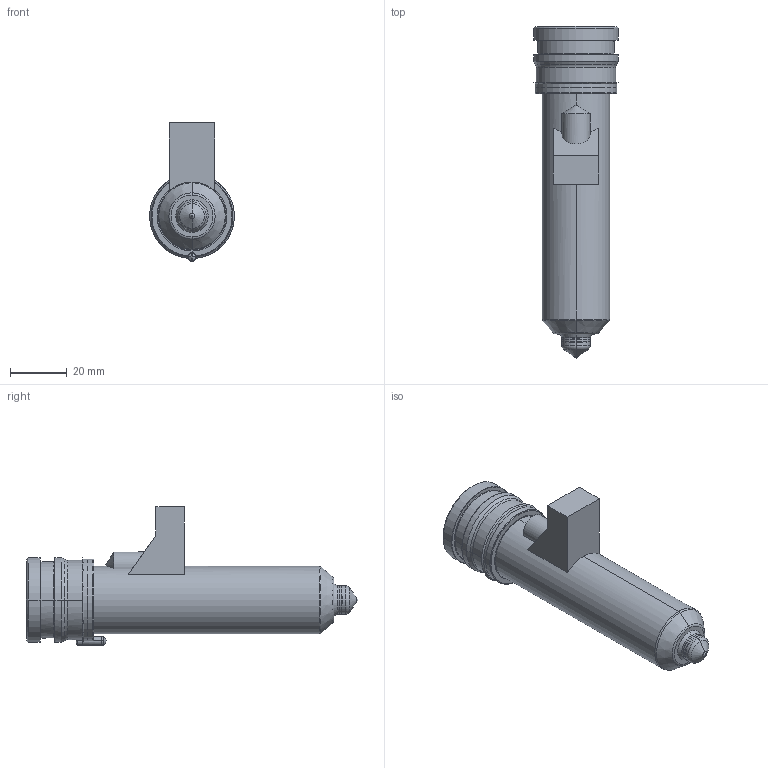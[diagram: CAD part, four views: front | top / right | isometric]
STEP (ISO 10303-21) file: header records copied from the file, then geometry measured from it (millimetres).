
FILE_DESCRIPTION((''),'2;1');
FILE_NAME('MPN-10-29-TX10-096-M','2026-02-05T12:51:01',('UPTIO'),('Thermoplay S.p.A.'),'CREO PARAMETRIC BY PTC INC, 2023494','CREO PARAMETRIC BY PTC INC, 2023494','');
FILE_SCHEMA(('CONFIG_CONTROL_DESIGN','SHAPE_APPEARANCE_LAYERS_GROUPS'));
Length unit declared in the file: millimetre
Products named in the file (1): MPN-10-29-TX10-096-M
Bounding box: 30 x 117.5 x 49 mm (x, y, z)
Volume: 37181.7 mm3; surface area: 38098.6 mm2
Topology: 3 solids, 5 shells, 541 faces, 1383 edges, 844 vertices
Faces by surface type: cylinder 177, plane 146, bspline 73, torus 67, cone 64, sphere 10, extrusion 4
Entity records: 27484 total; most frequent: CARTESIAN_POINT 11718, ORIENTED_EDGE 2748, DIRECTION 2568, EDGE_CURVE 1374, AXIS2_PLACEMENT_3D 1017, VERTEX_POINT 844, EDGE_LOOP 570, CIRCLE 552
